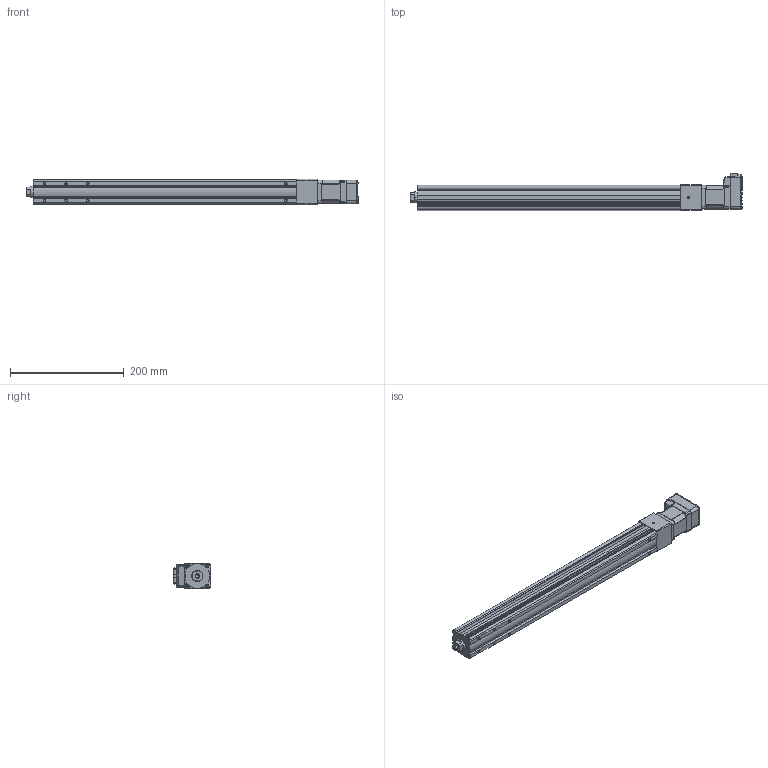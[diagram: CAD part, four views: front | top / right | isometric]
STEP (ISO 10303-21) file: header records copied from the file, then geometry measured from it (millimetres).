
FILE_DESCRIPTION (( 'STEP AP214' ), '1' );
FILE_NAME ('LEY3(+)-25DNM1□-350-17L.STEP', '2023-04-06T06:36:59', ( '' ), ( '' ), 'SwSTEP 2.0', 'SolidWorks 2019', '' );
FILE_SCHEMA (( 'AUTOMOTIVE_DESIGN' ));
Length unit declared in the file: millimetre
Products named in the file (5): LEY3(+)-25DNM1_MOTOR Flange; CM3(+)-17L50A; LEY3(+)-25NM1?_BODY_350; LEY3(+)-25NM1?_ROD_350; LEY3(+)-25DNM1□-350-17L
Assembly tree (4 placements, depth 2):
  LEY3(+)-25DNM1□-350-17L
    LEY3(+)-25NM1?_BODY_350
    LEY3(+)-25NM1?_ROD_350
    LEY3(+)-25DNM1_MOTOR Flange
    CM3(+)-17L50A
Bounding box: 584.8 x 66.75 x 45 mm (x, y, z)
Volume: 958317.6 mm3; surface area: 190301.7 mm2
Topology: 4 solids, 4 shells, 878 faces, 2218 edges, 1385 vertices
Faces by surface type: plane 460, cylinder 245, cone 94, bspline 29, torus 29, sphere 21
Full cylindrical faces by diameter (mm): 2.5 x4, 3.5 x4, 4 x1, 4.2 x6, 5 x1, 8 x1, 11 x1, 22 x1, 33 x1
Entity records: 36486 total; most frequent: CARTESIAN_POINT 6496, ORIENTED_EDGE 4284, DIRECTION 4139, EDGE_CURVE 2142, AXIS2_PLACEMENT_3D 1383, VERTEX_POINT 1375, LINE 1373, VECTOR 1373
